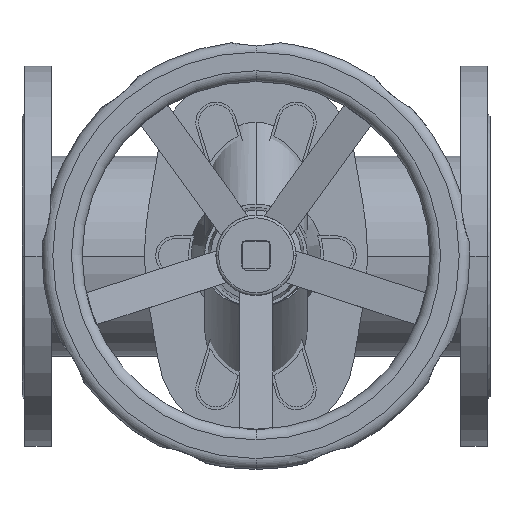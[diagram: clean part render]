
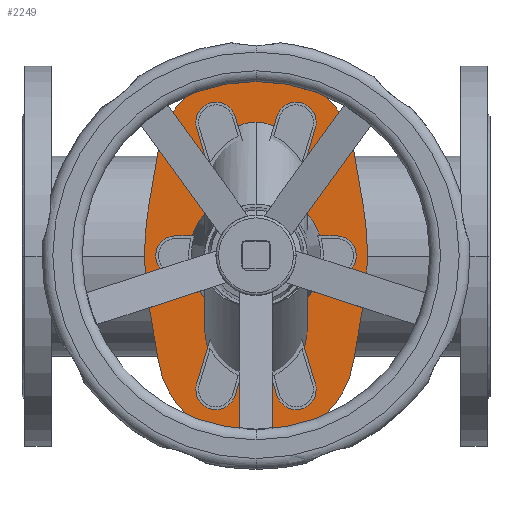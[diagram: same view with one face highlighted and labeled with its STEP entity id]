
A CAD part, top view. The second image highlights one B-rep face of the part: STEP entity #2249.
In plain terms, the highlighted planar face has unit normal (0, 0, 1).
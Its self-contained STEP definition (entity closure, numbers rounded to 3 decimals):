
#2249=ADVANCED_FACE('',(#4198),#4199,.T.);
#4198=FACE_OUTER_BOUND('',#6301,.T.);
#4199=PLANE('',#6302);
#6301=EDGE_LOOP('',(#11014,#11015,#11016,#11017,#11018,#11019,#11020,#11021,#11022,#11023,#11024));
#6302=AXIS2_PLACEMENT_3D('',#11025,#11026,#11027);
#11014=ORIENTED_EDGE('',*,*,#11315,.T.);
#11015=ORIENTED_EDGE('',*,*,#12402,.T.);
#11016=ORIENTED_EDGE('',*,*,#12614,.T.);
#11017=ORIENTED_EDGE('',*,*,#11423,.T.);
#11018=ORIENTED_EDGE('',*,*,#12474,.T.);
#11019=ORIENTED_EDGE('',*,*,#12707,.T.);
#11020=ORIENTED_EDGE('',*,*,#12578,.T.);
#11021=ORIENTED_EDGE('',*,*,#11306,.T.);
#11022=ORIENTED_EDGE('',*,*,#11210,.T.);
#11023=ORIENTED_EDGE('',*,*,#11206,.T.);
#11024=ORIENTED_EDGE('',*,*,#12551,.T.);
#11025=CARTESIAN_POINT('',(174.984,0.505,224.0));
#11026=DIRECTION('',(0.0,0.0,1.0));
#11027=DIRECTION('',(1.0,0.0,0.0));
#11206=EDGE_CURVE('',#13137,#13135,#13138,.T.);
#11210=EDGE_CURVE('',#13143,#13137,#13144,.T.);
#11306=EDGE_CURVE('',#13312,#13143,#13315,.T.);
#11315=EDGE_CURVE('',#13331,#13329,#13332,.T.);
#11423=EDGE_CURVE('',#13519,#13517,#13520,.T.);
#12402=EDGE_CURVE('',#13329,#15030,#15032,.T.);
#12474=EDGE_CURVE('',#13517,#15129,#15131,.T.);
#12551=EDGE_CURVE('',#13135,#13331,#15232,.T.);
#12578=EDGE_CURVE('',#15263,#13312,#15264,.T.);
#12614=EDGE_CURVE('',#15030,#13519,#15303,.T.);
#12707=EDGE_CURVE('',#15129,#15263,#15416,.T.);
#13135=VERTEX_POINT('',#15913);
#13137=VERTEX_POINT('',#15916);
#13138=LINE('',#15917,#15918);
#13143=VERTEX_POINT('',#15924);
#13144=CIRCLE('',#15925,222.828);
#13312=VERTEX_POINT('',#16148);
#13315=CIRCLE('',#16152,222.828);
#13329=VERTEX_POINT('',#16171);
#13331=VERTEX_POINT('',#16174);
#13332=LINE('',#16175,#16176);
#13517=VERTEX_POINT('',#16416);
#13519=VERTEX_POINT('',#16419);
#13520=LINE('',#16420,#16421);
#15030=VERTEX_POINT('',#18594);
#15032=CIRCLE('',#18597,224.047);
#15129=VERTEX_POINT('',#18725);
#15131=CIRCLE('',#18728,74.);
#15232=CIRCLE('',#18855,74.);
#15263=VERTEX_POINT('',#18894);
#15264=CIRCLE('',#18895,222.828);
#15303=CIRCLE('',#18945,224.047);
#15416=LINE('',#19088,#19089);
#15913=CARTESIAN_POINT('',(102.056,-78.845,224.0));
#15916=CARTESIAN_POINT('',(94.946,-37.205,224.0));
#15917=CARTESIAN_POINT('',(94.946,-37.205,224.0));
#15918=VECTOR('',#19665,1.0);
#15924=CARTESIAN_POINT('',(91.768,-0.394,224.0));
#15925=AXIS2_PLACEMENT_3D('',#19670,#19671,#19672);
#16148=CARTESIAN_POINT('',(91.765,0.701,224.0));
#16152=AXIS2_PLACEMENT_3D('',#19789,#19790,#19791);
#16171=CARTESIAN_POINT('',(255.054,-37.205,224.0));
#16174=CARTESIAN_POINT('',(247.944,-78.845,224.0));
#16175=CARTESIAN_POINT('',(247.944,-78.845,224.0));
#16176=VECTOR('',#19798,1.0);
#16416=CARTESIAN_POINT('',(247.944,79.855,224.0));
#16419=CARTESIAN_POINT('',(255.054,38.214,224.0));
#16420=CARTESIAN_POINT('',(255.054,38.214,224.0));
#16421=VECTOR('',#19942,1.0);
#18594=CARTESIAN_POINT('',(258.251,0.505,224.0));
#18597=AXIS2_PLACEMENT_3D('',#21326,#21327,#21328);
#18725=CARTESIAN_POINT('',(102.056,79.855,224.0));
#18728=AXIS2_PLACEMENT_3D('',#21406,#21407,#21408);
#18855=AXIS2_PLACEMENT_3D('',#21507,#21508,#21509);
#18894=CARTESIAN_POINT('',(94.944,38.206,224.0));
#18895=AXIS2_PLACEMENT_3D('',#21536,#21537,#21538);
#18945=AXIS2_PLACEMENT_3D('',#21568,#21569,#21570);
#19088=CARTESIAN_POINT('',(102.056,79.855,224.0));
#19089=VECTOR('',#21676,1.0);
#19665=DIRECTION('',(0.168,-0.986,0.0));
#19670=CARTESIAN_POINT('',(314.595,0.299,224.0));
#19671=DIRECTION('',(0.0,0.0,1.0));
#19672=DIRECTION('',(1.0,0.0,0.0));
#19789=CARTESIAN_POINT('',(314.593,0.701,224.0));
#19790=DIRECTION('',(0.0,0.0,1.0));
#19791=DIRECTION('',(1.0,0.0,0.0));
#19798=DIRECTION('',(0.168,0.986,0.0));
#19942=DIRECTION('',(-0.168,0.986,0.0));
#21326=CARTESIAN_POINT('',(34.204,0.505,224.0));
#21327=DIRECTION('',(0.0,0.0,1.0));
#21328=DIRECTION('',(1.0,0.0,0.0));
#21406=CARTESIAN_POINT('',(175.,67.4,224.0));
#21407=DIRECTION('',(0.0,0.0,1.0));
#21408=DIRECTION('',(1.0,0.0,0.0));
#21507=CARTESIAN_POINT('',(175.,-66.39,224.0));
#21508=DIRECTION('',(0.0,0.0,1.0));
#21509=DIRECTION('',(1.0,0.0,0.0));
#21536=CARTESIAN_POINT('',(314.593,0.701,224.0));
#21537=DIRECTION('',(0.0,0.0,1.0));
#21538=DIRECTION('',(1.0,0.0,0.0));
#21568=CARTESIAN_POINT('',(34.204,0.505,224.0));
#21569=DIRECTION('',(0.0,0.0,1.0));
#21570=DIRECTION('',(1.0,0.0,0.0));
#21676=DIRECTION('',(-0.168,-0.986,0.0));
